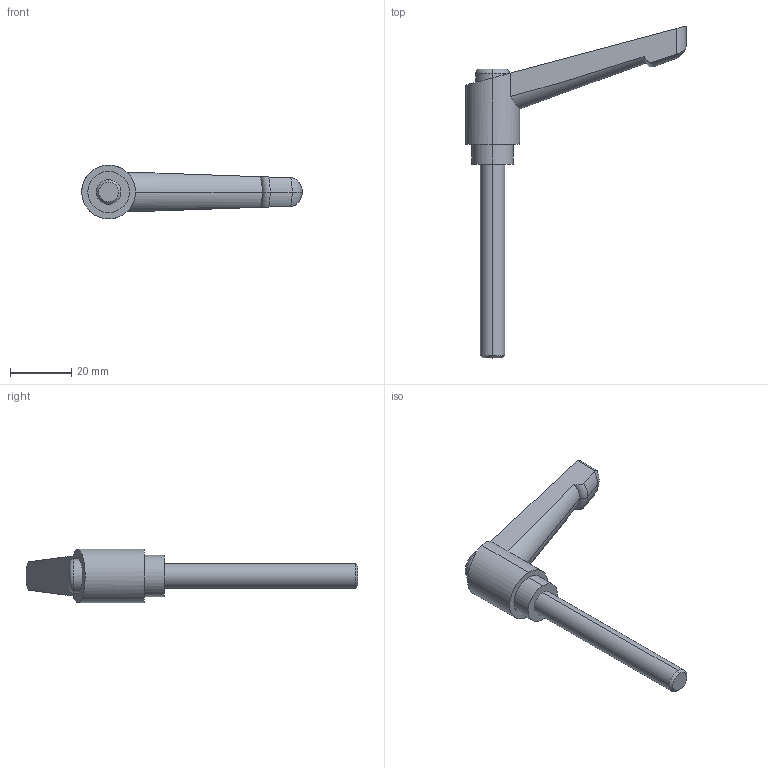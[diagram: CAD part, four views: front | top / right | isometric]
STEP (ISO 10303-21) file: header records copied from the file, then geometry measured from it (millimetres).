
FILE_DESCRIPTION (( 'STEP AP214' ), '1' );
FILE_NAME ('2.9035 Kiinnitysvipu M8 AL L63 ulkokierteellä.STEP', '2025-09-10T07:44:39', ( '' ), ( '' ), 'SwSTEP 2.0', 'SolidWorks 2025', '' );
FILE_SCHEMA (( 'AUTOMOTIVE_DESIGN' ));
Length unit declared in the file: millimetre
Products named in the file (1): 2.9035 Kiinnitysvipu M8 AL L63 ulkokierteellä
Bounding box: 71.75 x 108 x 17.5 mm (x, y, z)
Volume: 15209.3 mm3; surface area: 5737.6 mm2
Topology: 1 solids, 1 shells, 55 faces, 137 edges, 86 vertices
Faces by surface type: cylinder 31, cone 11, plane 7, torus 6
Entity records: 2302 total; most frequent: CARTESIAN_POINT 1080, ORIENTED_EDGE 270, DIRECTION 215, EDGE_CURVE 135, AXIS2_PLACEMENT_3D 89, VERTEX_POINT 86, B_SPLINE_CURVE_WITH_KNOTS 65, EDGE_LOOP 59
